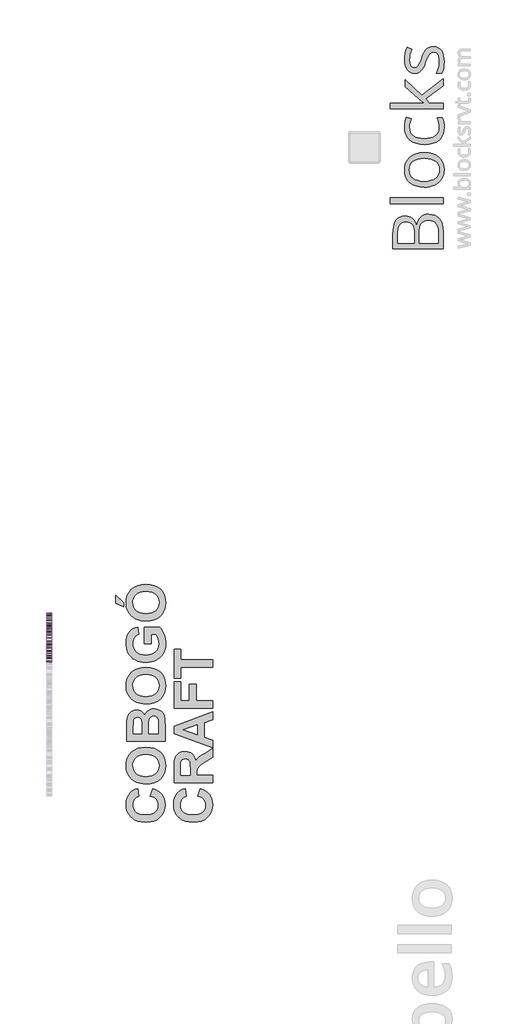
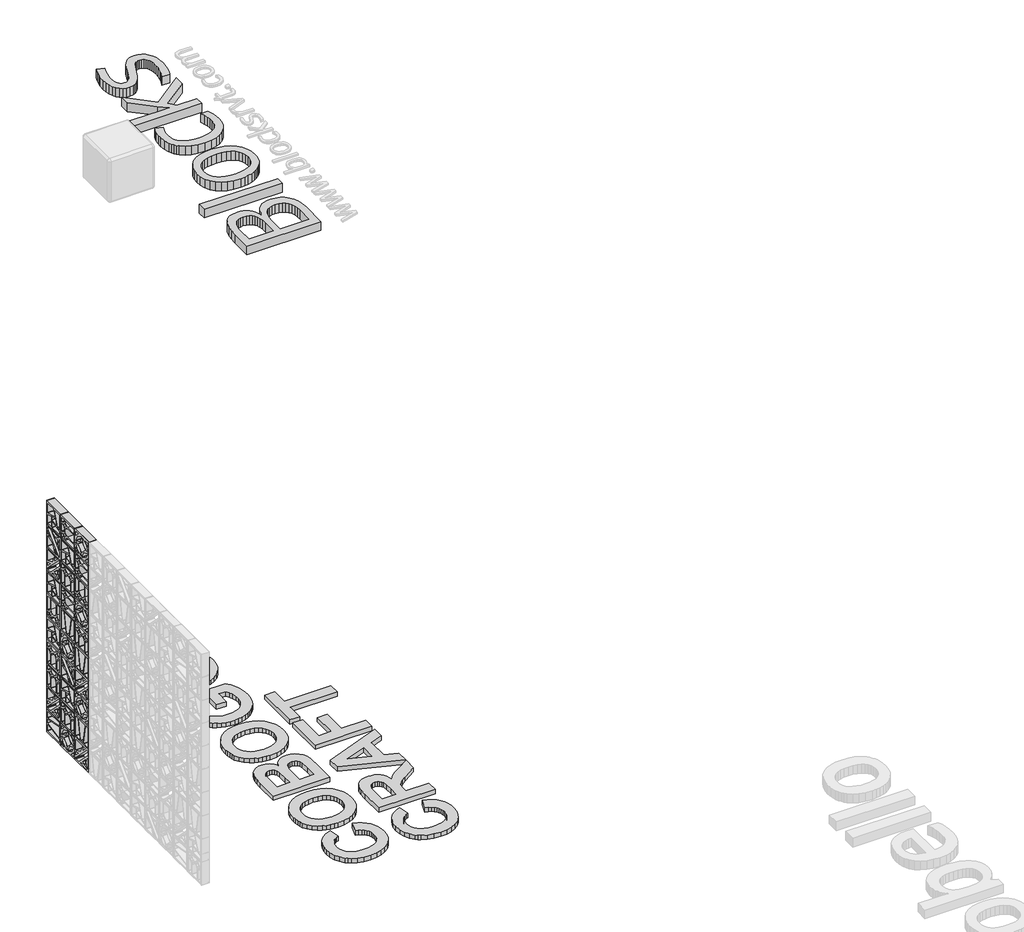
# One storey, part 7 of 8: 32 proxies.
"""IFC4 building model written with IfcOpenShell, lengths in millimetres."""

from ifc_helpers import new_model, si_unit, origin, origin_with_axes, place, context, project, spatial, polyline, outline, extrude, transform, mapped, element, save
from components import plate_7499bc92, plate_f0cbffd6, plate_92f93356, plate_8e8c4e3e, generic_models_fdc848f5, generic_models_516c6d05, generic_models_dbe83256, generic_models_90d806fa, generic_models_d5a960b2

model = new_model("IFC4")

# Units and contexts
model_context = context("Model", 3, world=origin())
ifc_project = project(units=[si_unit("LENGTHUNIT", "METRE", prefix="MILLI")], contexts=[model_context])

# Site, building, storey
site = spatial("IfcSite", under=ifc_project)
building = spatial("IfcBuilding", under=site)
storey = spatial("IfcBuildingStorey", under=building, Name="PORTOBELLO - SHOWROOM", Elevation=0.0)

# Proxies
placement = place(None, origin())
plate_shape = plate_7499bc92(model_context)
element("IfcBuildingElementProxy", 1, Name="PORTOBELLO - STUDIO CRAFT 2 26X26 (COBOGO) : STUDIO CRAFT 2", ObjectType="PORTOBELLO - STUDIO CRAFT 2 26X26 (COBOGO) : STUDIO CRAFT 2", at=placement, inside=storey, context=model_context, shape_type="MappedRepresentation", body=[
    mapped(plate_shape, transform((230423.1947921, 484.870016, 264.0), x_axis=(0.0, 1.0, 0.0), y_axis=(-1.0, 0.0, 0.0), z_axis=(0.0, 0.0, 1.0))),
])
element("IfcBuildingElementProxy", 2, Name="PORTOBELLO - STUDIO CRAFT 2 26X26 (COBOGO) : STUDIO CRAFT 2", ObjectType="PORTOBELLO - STUDIO CRAFT 2 26X26 (COBOGO) : STUDIO CRAFT 2", at=placement, inside=storey, context=model_context, shape_type="MappedRepresentation", body=[
    mapped(plate_shape, transform((230423.1947921, 748.870016, 528.0), x_axis=(0.0, 1.0, 0.0), y_axis=(-1.0, 0.0, 0.0), z_axis=(0.0, 0.0, 1.0))),
])
element("IfcBuildingElementProxy", 3, Name="PORTOBELLO - STUDIO CRAFT 2 26X26 (COBOGO) : STUDIO CRAFT 2", ObjectType="PORTOBELLO - STUDIO CRAFT 2 26X26 (COBOGO) : STUDIO CRAFT 2", at=placement, inside=storey, context=model_context, shape_type="MappedRepresentation", body=[
    mapped(plate_shape, transform((230423.1947921, 748.870016, 792.0), x_axis=(0.0, 1.0, 0.0), y_axis=(-1.0, 0.0, 0.0), z_axis=(0.0, 0.0, 1.0))),
])
element("IfcBuildingElementProxy", 4, Name="PORTOBELLO - STUDIO CRAFT 2 26X26 (COBOGO) : STUDIO CRAFT 2", ObjectType="PORTOBELLO - STUDIO CRAFT 2 26X26 (COBOGO) : STUDIO CRAFT 2", at=placement, inside=storey, context=model_context, shape_type="MappedRepresentation", body=[
    mapped(plate_shape, transform((230423.1947921, 220.870016, 1320.0), x_axis=(0.0, 1.0, 0.0), y_axis=(-1.0, 0.0, 0.0), z_axis=(0.0, 0.0, 1.0))),
])
element("IfcBuildingElementProxy", 5, Name="PORTOBELLO - STUDIO CRAFT 2 26X26 (COBOGO) : STUDIO CRAFT 2", ObjectType="PORTOBELLO - STUDIO CRAFT 2 26X26 (COBOGO) : STUDIO CRAFT 2", at=placement, inside=storey, context=model_context, shape_type="MappedRepresentation", body=[
    mapped(plate_shape, transform((230423.1947921, 484.870016, 1848.0), x_axis=(0.0, 1.0, 0.0), y_axis=(-1.0, 0.0, 0.0), z_axis=(0.0, 0.0, 1.0))),
])
plate_2_shape = plate_f0cbffd6(model_context)
element("IfcBuildingElementProxy", 6, Name="PORTOBELLO - STUDIO CRAFT 4 26X26 (COBOGO) : STUDIO CRAFT 4", ObjectType="PORTOBELLO - STUDIO CRAFT 4 26X26 (COBOGO) : STUDIO CRAFT 4", at=placement, inside=storey, context=model_context, shape_type="MappedRepresentation", body=[
    mapped(plate_2_shape, transform((230423.1947921, 484.870016, 0.0), x_axis=(0.0, 1.0, 0.0), y_axis=(-1.0, 0.0, 0.0), z_axis=(0.0, 0.0, 1.0))),
])
element("IfcBuildingElementProxy", 7, Name="PORTOBELLO - STUDIO CRAFT 4 26X26 (COBOGO) : STUDIO CRAFT 4", ObjectType="PORTOBELLO - STUDIO CRAFT 4 26X26 (COBOGO) : STUDIO CRAFT 4", at=placement, inside=storey, context=model_context, shape_type="MappedRepresentation", body=[
    mapped(plate_2_shape, transform((230423.1947921, 220.870016, 528.0), x_axis=(0.0, 1.0, 0.0), y_axis=(-1.0, 0.0, 0.0), z_axis=(0.0, 0.0, 1.0))),
])
element("IfcBuildingElementProxy", 8, Name="PORTOBELLO - STUDIO CRAFT 4 26X26 (COBOGO) : STUDIO CRAFT 4", ObjectType="PORTOBELLO - STUDIO CRAFT 4 26X26 (COBOGO) : STUDIO CRAFT 4", at=placement, inside=storey, context=model_context, shape_type="MappedRepresentation", body=[
    mapped(plate_2_shape, transform((230423.1947921, 484.870016, 1056.0), x_axis=(0.0, 1.0, 0.0), y_axis=(-1.0, 0.0, 0.0), z_axis=(0.0, 0.0, 1.0))),
])
element("IfcBuildingElementProxy", 9, Name="PORTOBELLO - STUDIO CRAFT 4 26X26 (COBOGO) : STUDIO CRAFT 4", ObjectType="PORTOBELLO - STUDIO CRAFT 4 26X26 (COBOGO) : STUDIO CRAFT 4", at=placement, inside=storey, context=model_context, shape_type="MappedRepresentation", body=[
    mapped(plate_2_shape, transform((230423.1947921, 220.870016, 1584.0), x_axis=(0.0, 1.0, 0.0), y_axis=(-1.0, 0.0, 0.0), z_axis=(0.0, 0.0, 1.0))),
])
element("IfcBuildingElementProxy", 10, Name="PORTOBELLO - STUDIO CRAFT 4 26X26 (COBOGO) : STUDIO CRAFT 4", ObjectType="PORTOBELLO - STUDIO CRAFT 4 26X26 (COBOGO) : STUDIO CRAFT 4", at=placement, inside=storey, context=model_context, shape_type="MappedRepresentation", body=[
    mapped(plate_2_shape, transform((230423.1947921, 220.870016, 2376.0), x_axis=(0.0, 1.0, 0.0), y_axis=(-1.0, 0.0, 0.0), z_axis=(0.0, 0.0, 1.0))),
])
plate_3_shape = plate_92f93356(model_context)
element("IfcBuildingElementProxy", 11, Name="PORTOBELLO - STUDIO CRAFT 5 26X26 (COBOGO) : STUDIO CRAFT 5", ObjectType="PORTOBELLO - STUDIO CRAFT 5 26X26 (COBOGO) : STUDIO CRAFT 5", at=placement, inside=storey, context=model_context, shape_type="MappedRepresentation", body=[
    mapped(plate_3_shape, transform((230423.1947921, 484.870016, 792.0), x_axis=(0.0, 1.0, 0.0), y_axis=(-1.0, 0.0, 0.0), z_axis=(0.0, 0.0, 1.0))),
])
element("IfcBuildingElementProxy", 12, Name="PORTOBELLO - STUDIO CRAFT 5 26X26 (COBOGO) : STUDIO CRAFT 5", ObjectType="PORTOBELLO - STUDIO CRAFT 5 26X26 (COBOGO) : STUDIO CRAFT 5", at=placement, inside=storey, context=model_context, shape_type="MappedRepresentation", body=[
    mapped(plate_3_shape, transform((230423.1947921, 748.870016, 2112.0), x_axis=(0.0, 1.0, 0.0), y_axis=(-1.0, 0.0, 0.0), z_axis=(0.0, 0.0, 1.0))),
])
plate_4_shape = plate_8e8c4e3e(model_context)
element("IfcBuildingElementProxy", 13, Name="PORTOBELLO - STUDIO CRAFT 6 26X26 (COBOGO) : STUDIO CRAFT 6", ObjectType="PORTOBELLO - STUDIO CRAFT 6 26X26 (COBOGO) : STUDIO CRAFT 6", at=placement, inside=storey, context=model_context, shape_type="MappedRepresentation", body=[
    mapped(plate_4_shape, transform((230423.1947921, 484.870016, 528.0), x_axis=(0.0, 1.0, 0.0), y_axis=(-1.0, 0.0, 0.0), z_axis=(0.0, 0.0, 1.0))),
])
element("IfcBuildingElementProxy", 14, Name="PORTOBELLO - STUDIO CRAFT 6 26X26 (COBOGO) : STUDIO CRAFT 6", ObjectType="PORTOBELLO - STUDIO CRAFT 6 26X26 (COBOGO) : STUDIO CRAFT 6", at=placement, inside=storey, context=model_context, shape_type="MappedRepresentation", body=[
    mapped(plate_4_shape, transform((230423.1947921, 748.870016, 1056.0), x_axis=(0.0, 1.0, 0.0), y_axis=(-1.0, 0.0, 0.0), z_axis=(0.0, 0.0, 1.0))),
])
element("IfcBuildingElementProxy", 15, Name="PORTOBELLO - STUDIO CRAFT 6 26X26 (COBOGO) : STUDIO CRAFT 6", ObjectType="PORTOBELLO - STUDIO CRAFT 6 26X26 (COBOGO) : STUDIO CRAFT 6", at=placement, inside=storey, context=model_context, shape_type="MappedRepresentation", body=[
    mapped(plate_4_shape, transform((230423.1947921, 748.870016, 1584.0), x_axis=(0.0, 1.0, 0.0), y_axis=(-1.0, 0.0, 0.0), z_axis=(0.0, 0.0, 1.0))),
])
element("IfcBuildingElementProxy", 16, Name="PORTOBELLO - STUDIO CRAFT 6 26X26 (COBOGO) : STUDIO CRAFT 6", ObjectType="PORTOBELLO - STUDIO CRAFT 6 26X26 (COBOGO) : STUDIO CRAFT 6", at=placement, inside=storey, context=model_context, shape_type="MappedRepresentation", body=[
    mapped(plate_4_shape, transform((230423.1947921, 484.870016, 2112.0), x_axis=(0.0, 1.0, 0.0), y_axis=(-1.0, 0.0, 0.0), z_axis=(0.0, 0.0, 1.0))),
])
element("IfcBuildingElementProxy", 17, Name="PORTOBELLO - STUDIO CRAFT 6 26X26 (COBOGO) : STUDIO CRAFT 6", ObjectType="PORTOBELLO - STUDIO CRAFT 6 26X26 (COBOGO) : STUDIO CRAFT 6", at=placement, inside=storey, context=model_context, shape_type="MappedRepresentation", body=[
    mapped(plate_4_shape, transform((230423.1947921, 748.870016, 2376.0), x_axis=(0.0, 1.0, 0.0), y_axis=(-1.0, 0.0, 0.0), z_axis=(0.0, 0.0, 1.0))),
])
generic_models_shape = generic_models_fdc848f5(model_context)
element("IfcBuildingElementProxy", 18, Name="PORTOBELLO - STUDIO CRAFT 5 26X26 (COBOGO) : STUDIO CRAFT 5", ObjectType="PORTOBELLO - STUDIO CRAFT 5 26X26 (COBOGO) : STUDIO CRAFT 5", at=placement, inside=storey, context=model_context, shape_type="MappedRepresentation", body=[
    mapped(generic_models_shape, transform((230423.1947921, 220.870016, 0.0), x_axis=(0.0, 1.0, 0.0), y_axis=(-1.0, 0.0, 0.0), z_axis=(0.0, 0.0, 1.0))),
])
element("IfcBuildingElementProxy", 19, Name="PORTOBELLO - STUDIO CRAFT 5 26X26 (COBOGO) : STUDIO CRAFT 5", ObjectType="PORTOBELLO - STUDIO CRAFT 5 26X26 (COBOGO) : STUDIO CRAFT 5", at=placement, inside=storey, context=model_context, shape_type="MappedRepresentation", body=[
    mapped(generic_models_shape, transform((230423.1947921, 748.870016, 264.0), x_axis=(0.0, 1.0, 0.0), y_axis=(-1.0, 0.0, 0.0), z_axis=(0.0, 0.0, 1.0))),
])
element("IfcBuildingElementProxy", 20, Name="PORTOBELLO - STUDIO CRAFT 5 26X26 (COBOGO) : STUDIO CRAFT 5", ObjectType="PORTOBELLO - STUDIO CRAFT 5 26X26 (COBOGO) : STUDIO CRAFT 5", at=placement, inside=storey, context=model_context, shape_type="MappedRepresentation", body=[
    mapped(generic_models_shape, transform((230423.1947921, 220.870016, 792.0), x_axis=(0.0, 1.0, 0.0), y_axis=(-1.0, 0.0, 0.0), z_axis=(0.0, 0.0, 1.0))),
])
element("IfcBuildingElementProxy", 21, Name="PORTOBELLO - STUDIO CRAFT 5 26X26 (COBOGO) : STUDIO CRAFT 5", ObjectType="PORTOBELLO - STUDIO CRAFT 5 26X26 (COBOGO) : STUDIO CRAFT 5", at=placement, inside=storey, context=model_context, shape_type="MappedRepresentation", body=[
    mapped(generic_models_shape, transform((230423.1947921, 748.870016, 1848.0), x_axis=(0.0, 1.0, 0.0), y_axis=(-1.0, 0.0, 0.0), z_axis=(0.0, 0.0, 1.0))),
])
generic_models_2_shape = generic_models_516c6d05(model_context)
element("IfcBuildingElementProxy", 22, Name="PORTOBELLO - STUDIO CRAFT 2 26X26 (COBOGO) : STUDIO CRAFT 2", ObjectType="PORTOBELLO - STUDIO CRAFT 2 26X26 (COBOGO) : STUDIO CRAFT 2", at=placement, inside=storey, context=model_context, shape_type="MappedRepresentation", body=[
    mapped(generic_models_2_shape, transform((230423.1947921, 484.870016, 1584.0), x_axis=(0.0, 1.0, 0.0), y_axis=(-1.0, 0.0, 0.0), z_axis=(0.0, 0.0, 1.0))),
])
element("IfcBuildingElementProxy", 23, Name="PORTOBELLO - STUDIO CRAFT 2 26X26 (COBOGO) : STUDIO CRAFT 2", ObjectType="PORTOBELLO - STUDIO CRAFT 2 26X26 (COBOGO) : STUDIO CRAFT 2", at=placement, inside=storey, context=model_context, shape_type="MappedRepresentation", body=[
    mapped(generic_models_2_shape, transform((230423.1947921, 220.870016, 2112.0), x_axis=(0.0, 1.0, 0.0), y_axis=(-1.0, 0.0, 0.0), z_axis=(0.0, 0.0, 1.0))),
])
element("IfcBuildingElementProxy", 24, Name="PORTOBELLO - STUDIO CRAFT 2 26X26 (COBOGO) : STUDIO CRAFT 2", ObjectType="PORTOBELLO - STUDIO CRAFT 2 26X26 (COBOGO) : STUDIO CRAFT 2", at=placement, inside=storey, context=model_context, shape_type="MappedRepresentation", body=[
    mapped(generic_models_2_shape, transform((230423.1947921, 484.870016, 2376.0), x_axis=(0.0, 1.0, 0.0), y_axis=(-1.0, 0.0, 0.0), z_axis=(0.0, 0.0, 1.0))),
])
generic_models_3_shape = generic_models_dbe83256(model_context)
element("IfcBuildingElementProxy", 25, Name="PORTOBELLO - STUDIO CRAFT 3 26X26 (COBOGO) : STUDIO CRAFT 3", ObjectType="PORTOBELLO - STUDIO CRAFT 3 26X26 (COBOGO) : STUDIO CRAFT 3", at=placement, inside=storey, context=model_context, shape_type="MappedRepresentation", body=[
    mapped(generic_models_3_shape, transform((230423.1947921, 748.870016, 0.0), x_axis=(0.0, 1.0, 0.0), y_axis=(-1.0, 0.0, 0.0), z_axis=(0.0, 0.0, 1.0))),
])
generic_models_4_shape = generic_models_90d806fa(model_context)
element("IfcBuildingElementProxy", 26, Name="PORTOBELLO - STUDIO CRAFT 2 26X26 (COBOGO) : STUDIO CRAFT 2", ObjectType="PORTOBELLO - STUDIO CRAFT 2 26X26 (COBOGO) : STUDIO CRAFT 2", at=placement, inside=storey, context=model_context, shape_type="MappedRepresentation", body=[
    mapped(generic_models_4_shape, transform((230423.1947921, 748.870016, 1320.0), x_axis=(0.0, 1.0, 0.0), y_axis=(-1.0, 0.0, 0.0), z_axis=(0.0, 0.0, 1.0))),
])
element("IfcBuildingElementProxy", 27, Name="PORTOBELLO - STUDIO CRAFT 2 26X26 (COBOGO) : STUDIO CRAFT 2", ObjectType="PORTOBELLO - STUDIO CRAFT 2 26X26 (COBOGO) : STUDIO CRAFT 2", at=placement, inside=storey, context=model_context, shape_type="MappedRepresentation", body=[
    mapped(generic_models_4_shape, transform((230423.1947921, 220.870016, 1848.0), x_axis=(0.0, 1.0, 0.0), y_axis=(-1.0, 0.0, 0.0), z_axis=(0.0, 0.0, 1.0))),
])
generic_models_5_shape = generic_models_d5a960b2(model_context)
element("IfcBuildingElementProxy", 28, Name="PORTOBELLO - STUDIO CRAFT 3 26X26 (COBOGO) : STUDIO CRAFT 3", ObjectType="PORTOBELLO - STUDIO CRAFT 3 26X26 (COBOGO) : STUDIO CRAFT 3", at=placement, inside=storey, context=model_context, shape_type="MappedRepresentation", body=[
    mapped(generic_models_5_shape, transform((230423.1947921, 220.870016, 264.0), x_axis=(0.0, 1.0, 0.0), y_axis=(-1.0, 0.0, 0.0), z_axis=(0.0, 0.0, 1.0))),
])
element("IfcBuildingElementProxy", 29, Name="PORTOBELLO - STUDIO CRAFT 3 26X26 (COBOGO) : STUDIO CRAFT 3", ObjectType="PORTOBELLO - STUDIO CRAFT 3 26X26 (COBOGO) : STUDIO CRAFT 3", at=placement, inside=storey, context=model_context, shape_type="MappedRepresentation", body=[
    mapped(generic_models_5_shape, transform((230423.1947921, 220.870016, 1056.0), x_axis=(0.0, 1.0, 0.0), y_axis=(-1.0, 0.0, 0.0), z_axis=(0.0, 0.0, 1.0))),
])
element("IfcBuildingElementProxy", 30, Name="PORTOBELLO - STUDIO CRAFT 3 26X26 (COBOGO) : STUDIO CRAFT 3", ObjectType="PORTOBELLO - STUDIO CRAFT 3 26X26 (COBOGO) : STUDIO CRAFT 3", at=placement, inside=storey, context=model_context, shape_type="MappedRepresentation", body=[
    mapped(generic_models_5_shape, transform((230423.1947921, 484.870016, 1320.0), x_axis=(0.0, 1.0, 0.0), y_axis=(-1.0, 0.0, 0.0), z_axis=(0.0, 0.0, 1.0))),
])
element("IfcBuildingElementProxy", 31, Name="600mm Arial", ObjectType="600mm Arial", at=placement, inside=storey, context=model_context, shape_type="SweptSolid", body=[
    extrude(outline(polyline([(232035.9560872, -2031.9353995), (232074.8231119, -1915.3343252), (232120.9255142, -1931.4371916), (232160.6987404, -1952.1137656), (232194.1427904, -1977.3640471), (232221.2576642, -2007.188036), (232242.2141643, -2041.4623753), (232257.1830929, -2080.0637075), (232266.16445, -2122.9920327), (232269.1582357, -2170.2473509), (232264.0436541, -2228.6332892), (232248.6999092, -2281.5725302), (232223.1270011, -2329.0650739), (232187.3249297, -2371.1109202), (232142.6506249, -2405.5181057), (232090.4610164, -2430.0946668), (232030.7561044, -2444.8406034), (231963.5358887, -2449.7559156), (231892.6529114, -2444.7979028), (231830.1582276, -2429.9238644), (231776.0518371, -2405.1338004), (231752.144252, -2389.0202588), (231730.3337401, -2370.4277108), (231694.0002837, -2327.6369764), (231668.0478147, -2278.592978), (231652.4763334, -2223.2957156), (231647.2858396, -2161.7451892), (231651.5653875, -2107.9234694), (231664.4040312, -2059.4156006), (231685.8017706, -2016.2215828), (231715.7586059, -1978.3414161), (231738.1621814, -1958.6327222), (231764.9876402, -1941.5619757), (231796.2349821, -1927.1291767), (231831.9042072, -1915.3343252), (231851.3377196, -2031.9353995), (231829.9826807, -2039.2846452), (231811.0093858, -2049.7937346), (231794.4178348, -2063.4626675), (231780.2080278, -2080.2914439), (231768.8164596, -2099.6917448), (231760.6796252, -2121.0752507), (231755.7975246, -2144.4419617), (231754.1701577, -2169.7918779), (231757.1259873, -2204.4410334), (231765.9934762, -2235.6646528), (231780.7726245, -2263.462736), (231801.4634319, -2287.8352832), (231828.7680862, -2307.6625899), (231863.3887746, -2321.8249518), (231905.3254973, -2330.322369), (231954.5782541, -2333.1548414), (232006.7109284, -2330.4077701), (232050.7589579, -2322.1665565), (232086.7223427, -2308.4312005), (232114.6010826, -2289.201702), (232135.4579479, -2265.5692984), (232150.3557089, -2238.6252269), (232159.2943655, -2208.3694876), (232162.2739177, -2174.8020803), (232160.3713692, -2149.8127469), (232154.6637238, -2126.6168382), (232145.1509816, -2105.2143542), (232131.8331424, -2085.605295), (232114.4255357, -2068.2166664), (232092.643491, -2053.4754742), (232066.4870081, -2041.3817186), (232035.9560872, -2031.9353995)])), origin_with_axes(), (0.0, 0.0, 1.0), 50.0),
    extrude(outline(polyline([(231966.8760236, -1837.6002757), (231922.0688725, -1835.8827631), (231881.0193733, -1830.7302254), (231843.7275258, -1822.1426625), (231810.1933301, -1810.1200746), (231765.9555202, -1785.8851182), (231726.4622201, -1754.1728143), (231694.1426189, -1717.0327911), (231671.4259057, -1676.514677), (231660.8646268, -1647.3454303), (231653.3208561, -1616.0126872), (231648.7945937, -1582.5164476), (231647.2858396, -1546.8567115), (231652.519034, -1483.7547304), (231668.2186171, -1427.2950631), (231694.3845889, -1377.4777096), (231731.0169496, -1334.3026699), (231752.9709828, -1315.6211623), (231776.9675275, -1299.4305224), (231831.0881515, -1274.5218457), (231893.3788214, -1259.5766396), (231963.8395373, -1254.5949043), (232033.8210578, -1259.5386835), (232095.7369114, -1274.3700214), (232149.5870983, -1299.0889177), (232173.4875667, -1315.1562003), (232195.3716184, -1333.6953726), (232231.9043443, -1376.5857417), (232257.9991486, -1426.1563807), (232273.6560311, -1482.4072896), (232278.8749919, -1545.3384684), (232273.6797536, -1608.9338785), (232258.0940388, -1665.6592384), (232232.1178473, -1715.514548), (232195.7511792, -1758.4998073), (232150.2750522, -1793.1062622), (232096.970484, -1817.8251586), (232035.8374744, -1832.6564964), (231966.8760236, -1837.6002757)]), holes=[polyline([(231962.6249428, -1720.9992014), (232011.0474104, -1717.9010364), (232053.2261031, -1708.6065416), (232089.1610207, -1693.1157169), (232118.8521634, -1671.4285624), (232142.1002617, -1644.9684309), (232158.7060462, -1615.1586755), (232168.6695169, -1581.9992961), (232171.9906738, -1545.4902927), (232168.6932395, -1509.0192454), (232158.8009364, -1475.9737343), (232142.3137647, -1446.3537592), (232119.2317242, -1420.1593203), (232089.5548151, -1398.7378583), (232053.2830372, -1383.436814), (232010.4163906, -1374.2561874), (231960.9548753, -1371.1959785), (231912.181314, -1374.1755307), (231870.0121104, -1383.1141873), (231834.4472645, -1398.0119483), (231805.4867763, -1418.8688136), (231783.0357557, -1444.6599692), (231766.9993123, -1474.3606009), (231757.3774463, -1507.9707087), (231754.1701577, -1545.4902927), (231757.4154024, -1583.0478327), (231767.1511366, -1616.7718088), (231783.3773604, -1646.6622209), (231806.0940736, -1672.7190691), (231835.3487214, -1693.841627), (231871.1887488, -1708.9291683), (231913.614156, -1717.9816931), (231962.6249428, -1720.9992014)])]), origin_with_axes(), (0.0, 0.0, 1.0), 50.0),
    extrude(outline(polyline([(231657.0025958, -1157.4273424), (231657.0025958, -906.1581003), (231658.5208389, -841.082403), (231663.0755684, -794.9467892), (231672.4696979, -760.216977), (231688.5061412, -729.3586849), (231711.0520521, -702.8463638), (231739.9745842, -681.1544647), (231774.040165, -666.6931987), (231812.0152219, -661.8727767), (231853.3873478, -667.6231226), (231891.2675145, -684.8741605), (231922.8849282, -711.9937788), (231945.4687952, -747.3498663), (231955.014749, -723.5324268), (231967.4074088, -702.6376054), (231982.6467744, -684.665402), (232000.732846, -669.6158168), (232021.1057713, -657.726075), (232043.2056983, -649.2334024), (232067.0326268, -644.1377988), (232092.5865569, -642.4392643), (232133.5981001, -647.3166204), (232173.4330048, -661.9486888), (232208.7321582, -685.0259848), (232236.1364471, -715.2390236), (232255.0955085, -752.9483879), (232265.0589792, -798.5146606), (232269.1582357, -948.2134356), (232269.1582357, -1157.4273424), (231657.0025958, -1157.4273424)]), holes=[polyline([(231763.8869139, -1040.8262681), (231899.9215005, -1040.8262681), (231899.9215005, -951.8572192), (231897.9477844, -853.1714142), (231890.8499977, -822.1043636), (231876.8442046, -798.4387484), (231856.6136145, -783.4650753), (231830.841437, -778.4738509), (231806.1889638, -782.7818659), (231786.584649, -795.7059108), (231772.8635265, -817.0941612), (231765.86063, -846.7947929), (231763.8869139, -962.7885699), (231763.8869139, -1040.8262681)]), polyline([(232006.8058186, -1040.8262681), (232162.2739177, -1040.8262681), (232162.2739177, -917.5449239), (232158.6301341, -826.146686), (232150.4885552, -799.1599139), (232135.476926, -777.7147294), (232113.8988951, -763.7089363), (232086.0581113, -759.0403386), (232061.9180451, -762.6461661), (232041.7254112, -773.4636485), (232025.9736384, -791.0752691), (232015.156156, -815.063511), (232008.893403, -858.1816166), (232006.8058186, -933.1828284), (232006.8058186, -1040.8262681)])]), origin_with_axes(), (0.0, 0.0, 1.0), 50.0),
    extrude(outline(polyline([(231966.8760236, -564.7052148), (231922.0688725, -562.9877022), (231881.0193733, -557.8351645), (231843.7275258, -549.2476016), (231810.1933301, -537.2250137), (231765.9555202, -512.9900573), (231726.4622201, -481.2777534), (231694.1426189, -444.1377302), (231671.4259057, -403.6196161), (231660.8646268, -374.4503694), (231653.3208561, -343.1176263), (231648.7945937, -309.6213867), (231647.2858396, -273.9616506), (231652.519034, -210.8596695), (231668.2186171, -154.4000022), (231694.3845889, -104.5826487), (231731.0169496, -61.407609), (231752.9709828, -42.7261014), (231776.9675275, -26.5354615), (231831.0881515, -1.6267848), (231893.3788214, 13.3184213), (231963.8395373, 18.3001566), (232033.8210578, 13.3563774), (232095.7369114, -1.4749605), (232149.5870983, -26.1938568), (232173.4875667, -42.2611394), (232195.3716184, -60.8003117), (232231.9043443, -103.6906808), (232257.9991486, -153.2613198), (232273.6560311, -209.5122287), (232278.8749919, -272.4434075), (232273.6797536, -336.0388176), (232258.0940388, -392.7641775), (232232.1178473, -442.6194871), (232195.7511792, -485.6047464), (232150.2750522, -520.2112013), (232096.970484, -544.9300977), (232035.8374744, -559.7614355), (231966.8760236, -564.7052148)]), holes=[polyline([(231962.6249428, -448.1041405), (232011.0474104, -445.0059755), (232053.2261031, -435.7114807), (232089.1610207, -420.220656), (232118.8521634, -398.5335015), (232142.1002617, -372.07337), (232158.7060462, -342.2636146), (232168.6695169, -309.1042352), (232171.9906738, -272.5952318), (232168.6932395, -236.1241845), (232158.8009364, -203.0786734), (232142.3137647, -173.4586983), (232119.2317242, -147.2642594), (232089.5548151, -125.8427974), (232053.2830372, -110.5417531), (232010.4163906, -101.3611265), (231960.9548753, -98.3009176), (231912.181314, -101.2804698), (231870.0121104, -110.2191264), (231834.4472645, -125.1168874), (231805.4867763, -145.9737527), (231783.0357557, -171.7649083), (231766.9993123, -201.46554), (231757.3774463, -235.0756478), (231754.1701577, -272.5952318), (231757.4154024, -310.1527718), (231767.1511366, -343.8767479), (231783.3773604, -373.76716), (231806.0940736, -399.8240082), (231835.3487214, -420.9465661), (231871.1887488, -436.0341074), (231913.614156, -445.0866322), (231962.6249428, -448.1041405)])]), origin_with_axes(), (0.0, 0.0, 1.0), 50.0),
    extrude(outline(polyline([(232045.6728434, 397.2536481), (231938.7885253, 397.2536481), (231938.7885253, 659.6060652), (232182.9220246, 659.6060652), (232201.4018905, 638.331683), (232218.733585, 612.7682639), (232249.9524598, 548.7743149), (232262.6060676, 512.3744353), (232271.6443589, 475.7468191), (232277.0673337, 438.8914666), (232278.8749919, 401.8083775), (232276.3604017, 356.0997695), (232268.816631, 313.4086698), (232256.2436799, 273.7350784), (232238.6415483, 237.0789952), (232216.3660746, 204.1141407), (232189.7730968, 175.5142353), (232158.8626151, 151.279279), (232123.6346294, 131.4092717), (232085.4270915, 115.9326805), (232045.5779532, 104.8779725), (232004.0872145, 98.2451478), (231960.9548753, 96.0342062), (231914.6057585, 98.5345629), (231870.9040782, 106.0356329), (231829.8498344, 118.5374164), (231791.4430271, 136.0399133), (231756.5186901, 158.3628322), (231725.911857, 185.3258817), (231699.6225278, 216.9290619), (231677.6507027, 253.1723727), (231664.3660751, 284.3532915), (231654.8770554, 319.1400377), (231649.1836435, 357.5326115), (231647.2858396, 399.5310128), (231650.350793, 453.281565), (231659.5456531, 500.8168092), (231674.8704199, 542.1367456), (231696.3250935, 577.241374), (231723.1885083, 606.3868981), (231754.7394989, 629.8295213), (231790.9780652, 647.5692437), (231831.9042072, 659.6060652), (231851.3377196, 543.0049909), (231829.9826807, 534.6831206), (231811.0093858, 523.3816981), (231794.4178348, 509.1007235), (231780.2080278, 491.8401966), (231768.8164596, 471.9227442), (231760.6796252, 449.670993), (231755.7975246, 425.0849429), (231754.1701577, 398.1645939), (231757.3489793, 357.8267711), (231766.8854441, 321.8349193), (231782.7795521, 290.1890386), (231805.0313034, 262.8891289), (231833.5458076, 240.9030702), (231868.2281747, 225.1987425), (231909.0784046, 215.776146), (231956.0964973, 212.6352804), (232006.6966949, 215.7571679), (232050.5501995, 225.1228304), (232087.6570111, 240.7322678), (232118.0171297, 262.5854802), (232141.6305553, 289.5058292), (232158.4972878, 320.3166762), (232168.6173273, 355.0180213), (232171.9906738, 393.6098645), (232168.2899562, 433.6345496), (232157.1878031, 473.8490152), (232140.8097551, 511.292687), (232121.2813525, 543.0049909), (232045.6728434, 543.0049909), (232045.6728434, 397.2536481)])), origin_with_axes(), (0.0, 0.0, 1.0), 50.0),
    extrude(outline(polyline([(231966.8760236, 756.7736271), (231922.0688725, 758.4911397), (231881.0193733, 763.6436774), (231843.7275258, 772.2312402), (231810.1933301, 784.2538282), (231765.9555202, 808.4887845), (231726.4622201, 840.2010884), (231694.1426189, 877.3411116), (231671.4259057, 917.8592258), (231660.8646268, 947.0284724), (231653.3208561, 978.3612155), (231648.7945937, 1011.8574551), (231647.2858396, 1047.5171912), (231652.519034, 1110.6191723), (231668.2186171, 1167.0788396), (231694.3845889, 1216.8961932), (231731.0169496, 1260.0712329), (231752.9709828, 1278.7527404), (231776.9675275, 1294.9433803), (231831.0881515, 1319.8520571), (231893.3788214, 1334.7972631), (231963.8395373, 1339.7789985), (232033.8210578, 1334.8352192), (232095.7369114, 1320.0038814), (232149.5870983, 1295.284985), (232173.4875667, 1279.2177024), (232195.3716184, 1260.6785301), (232231.9043443, 1217.788161), (232257.9991486, 1168.217522), (232273.6560311, 1111.9666131), (232278.8749919, 1049.0354344), (232273.6797536, 985.4400242), (232258.0940388, 928.7146644), (232232.1178473, 878.8593548), (232195.7511792, 835.8740954), (232150.2750522, 801.2676405), (232096.970484, 776.5487442), (232035.8374744, 761.7174064), (231966.8760236, 756.7736271)]), holes=[polyline([(231962.6249428, 873.3747014), (232011.0474104, 876.4728663), (232053.2261031, 885.7673611), (232089.1610207, 901.2581858), (232118.8521634, 922.9453404), (232142.1002617, 949.4054718), (232158.7060462, 979.2152273), (232168.6695169, 1012.3746067), (232171.9906738, 1048.88361), (232168.6932395, 1085.3546573), (232158.8009364, 1118.4001685), (232142.3137647, 1148.0201435), (232119.2317242, 1174.2145825), (232089.5548151, 1195.6360445), (232053.2830372, 1210.9370888), (232010.4163906, 1220.1177153), (231960.9548753, 1223.1779242), (231912.181314, 1220.198372), (231870.0121104, 1211.2597154), (231834.4472645, 1196.3619545), (231805.4867763, 1175.5050891), (231783.0357557, 1149.7139336), (231766.9993123, 1120.0133018), (231757.3774463, 1086.403194), (231754.1701577, 1048.88361), (231757.4154024, 1011.32607), (231767.1511366, 977.6020939), (231783.3773604, 947.7116818), (231806.0940736, 921.6548337), (231835.3487214, 900.5322758), (231871.1887488, 885.4447344), (231913.614156, 876.3922096), (231962.6249428, 873.3747014)])]), origin_with_axes(), (0.0, 0.0, 1.0), 50.0),
    extrude(outline(polyline([(231608.4188148, 980.2590195), (231482.1009844, 1038.5595566), (231482.1009844, 1164.8773871), (231608.4188148, 1048.2763128), (231608.4188148, 980.2590195)])), origin_with_axes(), (0.0, 0.0, 1.0), 50.0),
    extrude(outline(polyline([(232791.4241862, -2031.9353995), (232830.291211, -1915.3343252), (232876.3936133, -1931.4371916), (232916.1668394, -1952.1137656), (232949.6108894, -1977.3640471), (232976.7257633, -2007.188036), (232997.6822633, -2041.4623753), (233012.6511919, -2080.0637075), (233021.6325491, -2122.9920327), (233024.6263348, -2170.2473509), (233019.5117532, -2228.6332892), (233004.1680083, -2281.5725302), (232978.5951001, -2329.0650739), (232942.7930288, -2371.1109202), (232898.1187239, -2405.5181057), (232845.9291155, -2430.0946668), (232786.2242034, -2444.8406034), (232719.0039877, -2449.7559156), (232648.1210105, -2444.7979028), (232585.6263266, -2429.9238644), (232531.5199362, -2405.1338004), (232507.612351, -2389.0202588), (232485.8018392, -2370.4277108), (232449.4683827, -2327.6369764), (232423.5159138, -2278.592978), (232407.9444324, -2223.2957156), (232402.7539386, -2161.7451892), (232407.0334865, -2107.9234694), (232419.8721302, -2059.4156006), (232441.2698697, -2016.2215828), (232471.2267049, -1978.3414161), (232493.6302805, -1958.6327222), (232520.4557392, -1941.5619757), (232551.7030811, -1927.1291767), (232587.3723062, -1915.3343252), (232606.8058186, -2031.9353995), (232585.4507797, -2039.2846452), (232566.4774848, -2049.7937346), (232549.8859338, -2063.4626675), (232535.6761268, -2080.2914439), (232524.2845586, -2099.6917448), (232516.1477242, -2121.0752507), (232511.2656236, -2144.4419617), (232509.6382567, -2169.7918779), (232512.5940864, -2204.4410334), (232521.4615753, -2235.6646528), (232536.2407235, -2263.462736), (232556.931531, -2287.8352832), (232584.2361852, -2307.6625899), (232618.8568737, -2321.8249518), (232660.7935963, -2330.322369), (232710.0463531, -2333.1548414), (232762.1790275, -2330.4077701), (232806.227057, -2322.1665565), (232842.1904417, -2308.4312005), (232870.0691816, -2289.201702), (232890.926047, -2265.5692984), (232905.8238079, -2238.6252269), (232914.7624645, -2208.3694876), (232917.7420167, -2174.8020803), (232915.8394682, -2149.8127469), (232910.1318229, -2126.6168382), (232900.6190806, -2105.2143542), (232887.3012414, -2085.605295), (232869.8936348, -2068.2166664), (232848.11159, -2053.4754742), (232821.9551072, -2041.3817186), (232791.4241862, -2031.9353995)])), origin_with_axes(), (0.0, 0.0, 1.0), 50.0),
    extrude(outline(polyline([(233024.6263348, -1818.1667633), (232412.4706948, -1818.1667633), (232412.4706948, -1560.6727242), (232416.6079074, -1476.78979), (232421.7794232, -1444.8117935), (232429.0195452, -1419.4761109), (232438.9071037, -1398.5623114), (232452.020929, -1379.8499645), (232468.3610209, -1363.3390702), (232487.9273796, -1349.0296285), (232509.8754822, -1337.4720025), (232533.360806, -1329.2165553), (232558.383351, -1324.263287), (232584.9431172, -1322.6121976), (232618.050307, -1324.998686), (232648.1399885, -1332.1581514), (232675.2121618, -1344.0905937), (232699.2668267, -1360.7960129), (232719.7251532, -1382.255431), (232736.0083111, -1408.4498699), (232748.1163002, -1439.3793297), (232756.0491207, -1475.0438103), (232780.4169234, -1441.2249441), (232807.0620907, -1413.8586112), (232845.6634229, -1385.5433764), (232905.8997201, -1348.8778042), (233024.6263348, -1274.0284166), (233024.6263348, -1410.2148276), (232884.7961402, -1498.8802279), (232831.1072667, -1541.7136629), (232801.8241518, -1568.4916765), (232787.4198199, -1587.8113206), (232778.3672951, -1608.2696471), (232773.5848292, -1635.4272216), (232771.9906738, -1674.8446095), (232771.9906738, -1701.565689), (233024.6263348, -1701.565689), (233024.6263348, -1818.1667633)]), holes=[polyline([(232665.1063558, -1701.565689), (232665.1063558, -1605.4608973), (232663.3413981, -1529.6056737), (232658.0465251, -1488.7839109), (232648.4436371, -1468.0219357), (232633.7546346, -1452.3460752), (232614.3780564, -1442.4964727), (232590.7124412, -1439.2132719), (232564.5037687, -1443.5402649), (232543.8746399, -1456.5212438), (232529.3184836, -1477.3970872), (232521.328729, -1505.4086734), (232519.3550129, -1600.1470463), (232519.3550129, -1701.565689), (232665.1063558, -1701.565689)])]), origin_with_axes(), (0.0, 0.0, 1.0), 50.0),
    extrude(outline(polyline([(233024.6263348, -691.0230452), (233024.6263348, -813.5452678), (232888.5917481, -861.5217515), (232888.5917481, -1092.750184), (233024.6263348, -1140.1193704), (233024.6263348, -1264.3116605), (232412.4706948, -1040.8262681), (232412.4706948, -916.633978), (233024.6263348, -691.0230452)]), holes=[polyline([(232781.70743, -898.8705331), (232558.2220377, -977.6673528), (232781.70743, -1055.4014024), (232781.70743, -898.8705331)])]), origin_with_axes(), (0.0, 0.0, 1.0), 50.0),
    extrude(outline(polyline([(233024.6263348, -632.7225081), (232412.4706948, -632.7225081), (232412.4706948, -214.9019919), (232519.3550129, -214.9019919), (232519.3550129, -516.1214338), (232655.3895996, -516.1214338), (232655.3895996, -253.7690167), (232762.2739177, -253.7690167), (232762.2739177, -516.1214338), (233024.6263348, -516.1214338), (233024.6263348, -632.7225081)])), origin_with_axes(), (0.0, 0.0, 1.0), 50.0),
    extrude(outline(polyline([(233024.6263348, 18.3001566), (232519.3550129, 18.3001566), (232519.3550129, -156.6014548), (232412.4706948, -156.6014548), (232412.4706948, 309.8028423), (232519.3550129, 309.8028423), (232519.3550129, 134.9012309), (233024.6263348, 134.9012309), (233024.6263348, 18.3001566)])), origin_with_axes(), (0.0, 0.0, 1.0), 50.0),
])
element("IfcBuildingElementProxy", 32, Name="80mm OpenSans", ObjectType="80mm OpenSans", at=placement, inside=storey, context=model_context, shape_type="SweptSolid", body=[
    extrude(outline(polyline([(235896.5994744, 6680.4734674), (235896.5994744, 6905.456588), (235899.5364536, 6979.2866859), (235908.3473911, 7042.1350356), (235923.032287, 7094.0016371), (235943.5911412, 7134.8864904), (235970.489664, 7165.8562222), (236004.1935656, 7187.9774591), (236044.7028461, 7201.2502013), (236092.0175054, 7205.6744487), (236125.6763384, 7203.2031798), (236156.2254286, 7195.7893731), (236183.6647762, 7183.4330285), (236207.9943812, 7166.134146), (236228.778579, 7144.1030465), (236245.5817054, 7117.5500507), (236258.4037603, 7086.4751585), (236267.2447436, 7050.87837), (236272.5328084, 7050.87837), (236282.4479299, 7093.4119878), (236296.4492833, 7130.2744566), (236314.5368686, 7161.4657763), (236336.7106857, 7186.985947), (236362.9707348, 7206.8349686), (236393.3170158, 7221.0128412), (236427.7495286, 7229.5195648), (236466.2682734, 7232.3551393), (236517.5039126, 7227.8407545), (236562.8055018, 7214.2975999), (236602.173041, 7191.7256755), (236635.6065302, 7160.1249815), (236662.2646865, 7120.4269382), (236681.3062266, 7073.5629662), (236692.7311507, 7019.5330655), (236696.5394587, 6958.337236), (236696.5394587, 6680.4734674), (235896.5994744, 6680.4734674)]), holes=[polyline([(236235.0356216, 6773.4953346), (236235.0356216, 6925.4070143), (236233.1051775, 6970.8888785), (236227.3138452, 7009.5052721), (236217.6616246, 7041.2561953), (236204.1485159, 7066.141648), (236186.068442, 7084.9127757), (236162.7153263, 7098.3207241), (236134.0891687, 7106.3654932), (236100.1899692, 7109.0470828), (236068.9873823, 7106.0575235), (236042.4418979, 7097.0888454), (236020.5535161, 7082.1410486), (236003.3222367, 7061.2141331), (235990.2823497, 7033.7822969), (235980.9681446, 6999.3197382), (235975.3796216, 6957.826457), (235973.5167806, 6909.3024533), (235973.5167806, 6773.4953346), (236235.0356216, 6773.4953346)]), polyline([(236311.9529278, 6773.4953346), (236619.6221526, 6773.4953346), (236619.6221526, 6939.1079095), (236617.2109753, 6984.2142009), (236609.9774435, 7023.3864422), (236597.9215571, 7056.6246336), (236581.0433162, 7083.928775), (236559.0422625, 7105.2237519), (236531.6179378, 7120.4344497), (236498.7703421, 7129.5608683), (236460.4994754, 7132.6030079), (236424.805038, 7129.4932652), (236394.1582988, 7120.1640372), (236368.5592578, 7104.615324), (236348.0079151, 7082.8471254), (236332.2338582, 7054.7392583), (236320.9666746, 7020.1715392), (236314.2063645, 6979.1439683), (236311.9529278, 6931.6565454), (236311.9529278, 6773.4953346)])]), origin_with_axes(), (0.0, 0.0, 1.0), 100.0),
    extrude(outline(polyline([(236696.5394587, 7494.1143469), (236696.5394587, 7403.255779), (235850.4490907, 7403.255779), (235850.4490907, 7494.1143469), (236696.5394587, 7494.1143469)])), origin_with_axes(), (0.0, 0.0, 1.0), 100.0),
    extrude(outline(polyline([(236396.0812315, 8215.454459), (236466.3959681, 8210.8349138), (236528.5532639, 8196.976278), (236582.5531188, 8173.8785518), (236628.3955328, 8141.5417351), (236664.9387647, 8101.0775233), (236691.0410732, 8053.597612), (236706.7024583, 7999.102001), (236711.92292, 7937.5906904), (236709.5267656, 7898.4635178), (236702.3383025, 7861.6048047), (236690.3575307, 7827.0145513), (236673.5844502, 7794.6927575), (236652.3345421, 7765.2854085), (236626.9232875, 7739.4384895), (236597.3506865, 7717.1520005), (236563.616739, 7698.4259415), (236526.2848043, 7683.598328), (236485.9182414, 7673.0071755), (236442.5170505, 7666.652484), (236396.0812315, 7664.5342534), (236325.7965406, 7669.1162414), (236263.7293823, 7682.8622053), (236209.8797566, 7705.7721451), (236164.2476633, 7737.8460609), (236127.9147521, 7778.0623946), (236101.9626728, 7825.3995883), (236086.3914251, 7879.857642), (236081.2010093, 7941.4365557), (236086.5116084, 8001.0700024), (236102.4434059, 8054.2586201), (236128.9964018, 8101.0024088), (236166.1705959, 8141.3013685), (236212.4036057, 8173.7433456), (236266.1330482, 8196.9161864), (236327.3589234, 8210.8198908), (236396.0812315, 8215.454459)]), holes=[polyline([(236395.3601317, 7758.9983201), (236450.4040789, 7761.8676962), (236498.4773953, 7770.4758244), (236539.5800808, 7784.8227047), (236573.7121354, 7804.9083372), (236600.5280322, 7830.5524469), (236619.6822442, 7861.5747589), (236631.1747714, 7897.9752731), (236635.0056138, 7939.7539896), (236631.1897943, 7981.5477291), (236619.7423358, 8017.993312), (236600.6632384, 8049.0907386), (236573.952502, 8074.8400086), (236539.8955619, 8095.0308015), (236498.7778535, 8109.4527964), (236450.5993768, 8118.1059934), (236395.3601317, 8120.9903923), (236340.6842458, 8118.1059934), (236292.9940137, 8109.4527964), (236252.2894353, 8095.0308015), (236218.5705108, 8074.8400086), (236192.1226753, 8049.015624), (236173.2313643, 8017.6928538), (236161.8965777, 7980.871698), (236158.1183154, 7938.5521567), (236161.8439975, 7896.8109975), (236173.0210435, 7860.5231551), (236191.6494536, 7829.6886295), (236217.7292277, 7804.3074208), (236251.1852513, 7784.4846892), (236291.9424099, 7770.3255953), (236340.0007033, 7761.8301389), (236395.3601317, 7758.9983201)])]), origin_with_axes(), (0.0, 0.0, 1.0), 100.0),
    extrude(outline(polyline([(236711.92292, 8617.5877504), (236706.8376645, 8555.5581494), (236691.581898, 8500.9498666), (236666.1556205, 8453.762902), (236630.558832, 8413.9972556), (236585.6628614, 8382.4491417), (236532.3390375, 8359.9147747), (236470.5873604, 8346.3941545), (236400.4078299, 8341.887281), (236328.4255501, 8346.4617576), (236265.1114902, 8360.1851871), (236210.4656501, 8383.0575696), (236164.4880299, 8415.0789052), (236144.9676344, 8434.3476669), (236128.0499583, 8455.5581399), (236113.7350017, 8478.7103242), (236102.0227644, 8503.8042197), (236086.406448, 8559.8171448), (236081.2010093, 8623.596915), (236083.4244001, 8667.313587), (236090.0945728, 8710.9701674), (236099.7693277, 8749.8795079), (236111.0064654, 8779.35446), (236186.2412055, 8751.2315699), (236166.1705959, 8684.77021), (236160.1313856, 8650.9085678), (236158.1183154, 8621.1932491), (236161.877799, 8577.8709285), (236173.1562497, 8540.3249173), (236191.9536676, 8508.5552155), (236218.2700525, 8482.5618231), (236252.1054047, 8462.3447401), (236293.4597239, 8447.9039665), (236342.3330103, 8439.2395024), (236398.7252639, 8436.3513477), (236452.4922636, 8439.1681436), (236499.6191366, 8447.6185312), (236540.1058827, 8461.7025106), (236573.952502, 8481.4200818), (236600.6632384, 8506.6660843), (236619.7423358, 8537.3353579), (236631.1897943, 8573.4279024), (236635.0056138, 8614.943718), (236632.9775208, 8653.1469816), (236626.8932417, 8691.8009325), (236616.7527765, 8730.9055708), (236602.5561252, 8770.4608964), (236681.6367307, 8770.4608964), (236694.8869385, 8738.1015454), (236704.3513727, 8701.8362373), (236710.0300331, 8661.6649723), (236711.92292, 8617.5877504)])), origin_with_axes(), (0.0, 0.0, 1.0), 100.0),
    extrude(outline(polyline([(236395.6004983, 9002.1742813), (236306.1841299, 9073.3227896), (236096.5844705, 9265.616055), (236096.5844705, 9372.5791839), (236352.3345136, 9131.2511358), (236696.5394587, 9389.4048447), (236696.5394587, 9280.0380499), (236419.6371565, 9069.7172908), (236477.3251361, 9002.4146479), (236696.5394587, 9002.4146479), (236696.5394587, 8912.5175463), (235850.4490907, 8912.5175463), (235850.4490907, 9002.4146479), (236302.5786311, 9002.4146479), (236395.6004983, 8997.8476829), (236395.6004983, 9002.1742813)])), origin_with_axes(), (0.0, 0.0, 1.0), 100.0),
    extrude(outline(polyline([(236534.7727492, 9903.3085966), (236574.8764111, 9899.3801053), (236610.0976268, 9887.5946313), (236640.4363963, 9867.9521747), (236665.8927196, 9840.4527355), (236686.0309322, 9805.8624821), (236700.4153699, 9764.9475829), (236709.0460325, 9717.7080382), (236711.92292, 9664.1438477), (236709.5493, 9607.4624031), (236702.42844, 9557.3609937), (236690.56034, 9513.8396195), (236673.9450001, 9476.8982804), (236588.8552301, 9476.8982804), (236607.9944192, 9522.0271062), (236622.6267348, 9570.4008808), (236631.9108941, 9619.4356635), (236635.0056138, 9666.5475135), (236633.5784372, 9700.4016443), (236629.2969075, 9730.0944286), (236622.1610246, 9755.6258664), (236612.1707885, 9776.9959579), (236599.2510847, 9793.8741988), (236583.3267987, 9805.9300852), (236564.3979304, 9813.163617), (236542.4644798, 9815.5747942), (236525.3233379, 9813.659373), (236509.4741664, 9807.9131095), (236494.9169653, 9798.3360035), (236481.6517346, 9784.9280551), (236454.129761, 9739.7691835), (236422.0408223, 9665.5860472), (236392.3555494, 9593.415981), (236366.7565085, 9545.6431229), (236341.6081548, 9514.605788), (236313.274944, 9492.6422916), (236280.3747681, 9479.5723587), (236241.5255193, 9475.2157144), (236206.3418609, 9478.9714422), (236175.0641595, 9490.2386257), (236147.692415, 9509.0172649), (236124.2266274, 9535.3073598), (236105.4029195, 9568.1474441), (236091.9574138, 9606.5760513), (236083.8901104, 9650.5931816), (236081.2010093, 9700.198835), (236083.6948125, 9748.6176783), (236091.1762224, 9796.5257426), (236103.6452388, 9843.923028), (236121.1018618, 9890.8095344), (236195.3751356, 9858.1196792), (236179.0752768, 9813.6518616), (236167.4325205, 9771.3473432), (236160.4468667, 9731.206124), (236158.1183154, 9693.2282041), (236163.2561511, 9636.0810493), (236169.6784457, 9613.5016135), (236178.6696582, 9594.9182721), (236189.9293303, 9580.4061397), (236203.1570037, 9570.0403309), (236218.3526786, 9563.8208456), (236235.5163548, 9561.7476838), (236258.200951, 9564.8424036), (236277.2199567, 9574.1265628), (236293.9855258, 9590.3212612), (236309.9098119, 9614.1475987), (236328.9288177, 9654.4690928), (236354.978546, 9720.1492613), (236374.7186515, 9769.5220595), (236394.5188487, 9810.196592), (236414.3791375, 9842.1728588), (236434.299518, 9865.45086), (236455.5419146, 9882.0136198), (236479.3682521, 9893.8441625), (236505.7785302, 9900.9424881), (236534.7727492, 9903.3085966)])), origin_with_axes(), (0.0, 0.0, 1.0), 100.0),
])

save(model, "model.ifc")
